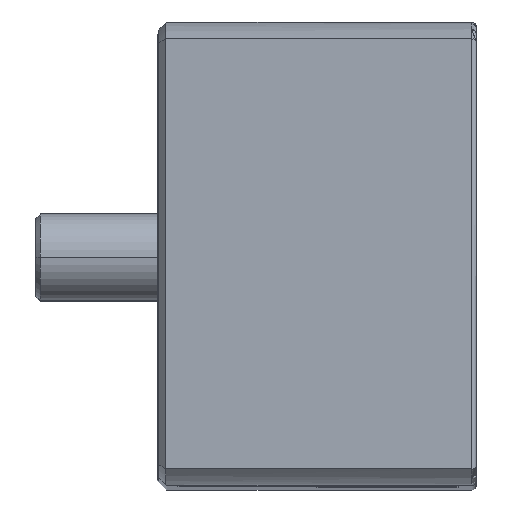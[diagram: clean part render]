
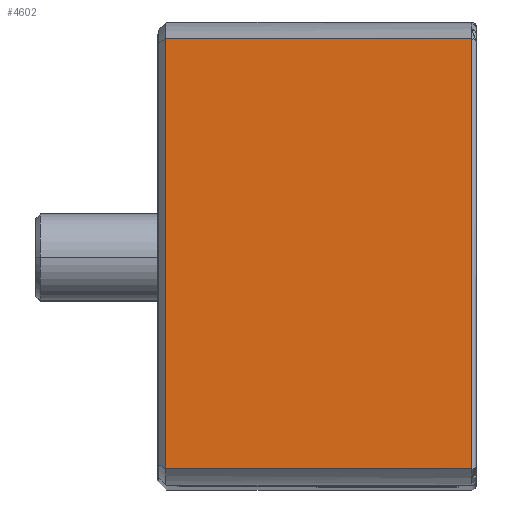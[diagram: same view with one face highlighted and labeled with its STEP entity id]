
A CAD part, top view. The second image highlights one B-rep face of the part: STEP entity #4602.
In plain terms, the highlighted planar face has unit normal (0, 0, 1).
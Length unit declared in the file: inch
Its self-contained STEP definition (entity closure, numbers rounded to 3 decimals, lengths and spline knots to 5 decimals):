
#163 = VECTOR ( 'NONE', #678, 39.37008 ) ;
#488 = DIRECTION ( 'NONE',  ( 1., 0., 0. ) ) ;
#676 = PLANE ( 'NONE',  #2515 ) ;
#678 = DIRECTION ( 'NONE',  ( 0., -1., 0. ) ) ;
#861 = CARTESIAN_POINT ( 'NONE',  ( -1.375, 0.92761, 8.505 ) ) ;
#1233 = VECTOR ( 'NONE', #2203, 39.37008 ) ;
#1251 = ORIENTED_EDGE ( 'NONE', *, *, #5906, .T. ) ;
#1276 = CARTESIAN_POINT ( 'NONE',  ( -1.34, -0.92761, 8.505 ) ) ;
#1324 = DIRECTION ( 'NONE',  ( 1., 0., 0. ) ) ;
#1560 = EDGE_LOOP ( 'NONE', ( #2117, #6831, #1251, #5056 ) ) ;
#1745 = EDGE_CURVE ( 'NONE', #4657, #6397, #7423, .T. ) ;
#1836 = LINE ( 'NONE', #1276, #163 ) ;
#2105 = VECTOR ( 'NONE', #6777, 39.37008 ) ;
#2111 = VECTOR ( 'NONE', #488, 39.37008 ) ;
#2117 = ORIENTED_EDGE ( 'NONE', *, *, #1745, .F. ) ;
#2203 = DIRECTION ( 'NONE',  ( 0., 1., 0. ) ) ;
#2242 = CARTESIAN_POINT ( 'NONE',  ( -0.02, 0.92761, 8.505 ) ) ;
#2515 = AXIS2_PLACEMENT_3D ( 'NONE', #3876, #7764, #1324 ) ;
#3054 = VERTEX_POINT ( 'NONE', #4499 ) ;
#3876 = CARTESIAN_POINT ( 'NONE',  ( -1.375, -0.92761, 8.505 ) ) ;
#4293 = CARTESIAN_POINT ( 'NONE',  ( -1.375, -0.92761, 8.505 ) ) ;
#4499 = CARTESIAN_POINT ( 'NONE',  ( -1.34, -0.92761, 8.505 ) ) ;
#4575 = VERTEX_POINT ( 'NONE', #5082 ) ;
#4588 = CARTESIAN_POINT ( 'NONE',  ( -1.34, 0.92761, 8.505 ) ) ;
#4602 = ADVANCED_FACE ( 'NONE', ( #5273 ), #676, .T. ) ;
#4657 = VERTEX_POINT ( 'NONE', #4588 ) ;
#4933 = LINE ( 'NONE', #4293, #2111 ) ;
#5056 = ORIENTED_EDGE ( 'NONE', *, *, #5760, .T. ) ;
#5082 = CARTESIAN_POINT ( 'NONE',  ( -0.02, -0.92761, 8.505 ) ) ;
#5273 = FACE_OUTER_BOUND ( 'NONE', #1560, .T. ) ;
#5495 = EDGE_CURVE ( 'NONE', #4657, #3054, #1836, .T. ) ;
#5760 = EDGE_CURVE ( 'NONE', #4575, #6397, #6925, .T. ) ;
#5906 = EDGE_CURVE ( 'NONE', #3054, #4575, #4933, .T. ) ;
#6397 = VERTEX_POINT ( 'NONE', #6405 ) ;
#6405 = CARTESIAN_POINT ( 'NONE',  ( -0.02, 0.92761, 8.505 ) ) ;
#6777 = DIRECTION ( 'NONE',  ( 1., 0., 0. ) ) ;
#6831 = ORIENTED_EDGE ( 'NONE', *, *, #5495, .T. ) ;
#6925 = LINE ( 'NONE', #2242, #1233 ) ;
#7423 = LINE ( 'NONE', #861, #2105 ) ;
#7764 = DIRECTION ( 'NONE',  ( 0., 0., 1. ) ) ;
